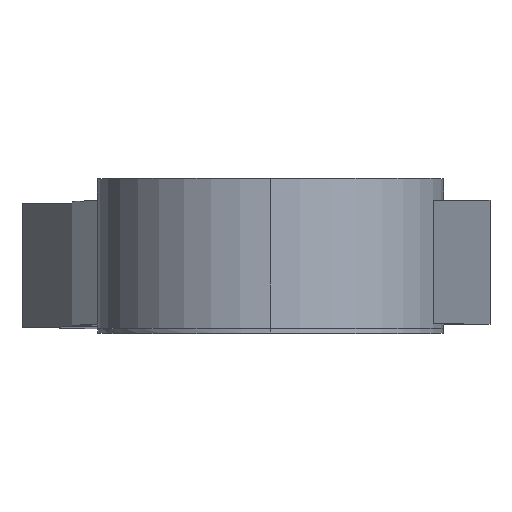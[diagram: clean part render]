
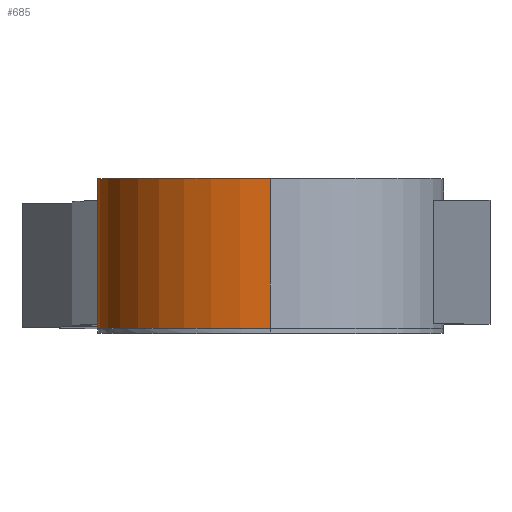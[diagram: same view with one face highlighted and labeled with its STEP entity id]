
A CAD part, top view. The second image highlights one B-rep face of the part: STEP entity #685.
In plain terms, the highlighted cylindrical face has radius 56 mm (diameter 112 mm), a partial arc.
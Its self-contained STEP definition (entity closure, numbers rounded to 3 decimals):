
#5 = ORIENTED_EDGE ( 'NONE', *, *, #580, .T. ) ;
#6 = ORIENTED_EDGE ( 'NONE', *, *, #37, .T. ) ;
#7 = ORIENTED_EDGE ( 'NONE', *, *, #19, .T. ) ;
#8 = VERTEX_POINT ( 'NONE', #87 ) ;
#11 = VERTEX_POINT ( 'NONE', #97 ) ;
#19 = EDGE_CURVE ( 'NONE', #595, #668, #166, .T. ) ;
#20 = VERTEX_POINT ( 'NONE', #171 ) ;
#23 = EDGE_CURVE ( 'NONE', #8, #727, #184, .T. ) ;
#32 = ORIENTED_EDGE ( 'NONE', *, *, #23, .F. ) ;
#37 = EDGE_CURVE ( 'NONE', #668, #20, #243, .T. ) ;
#59 = CARTESIAN_POINT ( 'NONE',  ( -155.973, -77., 1571.753 ) ) ;
#76 = LINE ( 'NONE', #77, #84 ) ;
#77 = CARTESIAN_POINT ( 'NONE',  ( -155.973, -77., 1571.753 ) ) ;
#84 = VECTOR ( 'NONE', #85, 1000. ) ;
#85 = DIRECTION ( 'NONE',  ( 0., 1., 0. ) ) ;
#87 = CARTESIAN_POINT ( 'NONE',  ( -100., -77., 1514. ) ) ;
#97 = CARTESIAN_POINT ( 'NONE',  ( -155.973, -37., 1571.753 ) ) ;
#120 = EDGE_CURVE ( 'NONE', #532, #11, #345, .T. ) ;
#166 = CIRCLE ( 'NONE', #167, 56. ) ;
#167 = AXIS2_PLACEMENT_3D ( 'NONE', #168, #169, #170 ) ;
#168 = CARTESIAN_POINT ( 'NONE',  ( -100., -78.5, 1570. ) ) ;
#169 = DIRECTION ( 'NONE',  ( 0., 1., 0. ) ) ;
#170 = DIRECTION ( 'NONE',  ( 0., 0., 1. ) ) ;
#171 = CARTESIAN_POINT ( 'NONE',  ( -100., -30., 1626. ) ) ;
#184 = CIRCLE ( 'NONE', #185, 56. ) ;
#185 = AXIS2_PLACEMENT_3D ( 'NONE', #186, #187, #188 ) ;
#186 = CARTESIAN_POINT ( 'NONE',  ( -100., -77., 1570. ) ) ;
#187 = DIRECTION ( 'NONE',  ( 0., 1., 0. ) ) ;
#188 = DIRECTION ( 'NONE',  ( 0., 0., -1. ) ) ;
#243 = LINE ( 'NONE', #244, #245 ) ;
#244 = CARTESIAN_POINT ( 'NONE',  ( -100., -77., 1626. ) ) ;
#245 = VECTOR ( 'NONE', #246, 1000. ) ;
#246 = DIRECTION ( 'NONE',  ( 0., 1., 0. ) ) ;
#259 = CIRCLE ( 'NONE', #260, 56. ) ;
#260 = AXIS2_PLACEMENT_3D ( 'NONE', #261, #262, #263 ) ;
#261 = CARTESIAN_POINT ( 'NONE',  ( -100., -30., 1570. ) ) ;
#262 = DIRECTION ( 'NONE',  ( 0., -1., 0. ) ) ;
#263 = DIRECTION ( 'NONE',  ( 0., 0., -1. ) ) ;
#284 = CARTESIAN_POINT ( 'NONE',  ( -100., -78.5, 1626. ) ) ;
#308 = LINE ( 'NONE', #309, #310 ) ;
#309 = CARTESIAN_POINT ( 'NONE',  ( -100., -77., 1514. ) ) ;
#310 = VECTOR ( 'NONE', #311, 1000. ) ;
#311 = DIRECTION ( 'NONE',  ( 0., 1., 0. ) ) ;
#319 = EDGE_CURVE ( 'NONE', #595, #8, #473, .T. ) ;
#339 = EDGE_LOOP ( 'NONE', ( #618, #7, #6, #5, #615, #729, #654, #32 ) ) ;
#345 = CIRCLE ( 'NONE', #346, 56. ) ;
#346 = AXIS2_PLACEMENT_3D ( 'NONE', #347, #348, #349 ) ;
#347 = CARTESIAN_POINT ( 'NONE',  ( -100., -37., 1570. ) ) ;
#348 = DIRECTION ( 'NONE',  ( 0., 1., 0. ) ) ;
#349 = DIRECTION ( 'NONE',  ( 0., 0., -1. ) ) ;
#368 = CARTESIAN_POINT ( 'NONE',  ( -100., -30., 1514. ) ) ;
#413 = CARTESIAN_POINT ( 'NONE',  ( -100., -78.5, 1514. ) ) ;
#467 = FACE_OUTER_BOUND ( 'NONE', #339, .T. ) ;
#468 = CYLINDRICAL_SURFACE ( 'NONE', #469, 56. ) ;
#469 = AXIS2_PLACEMENT_3D ( 'NONE', #470, #471, #472 ) ;
#470 = CARTESIAN_POINT ( 'NONE',  ( -100., -77., 1570. ) ) ;
#471 = DIRECTION ( 'NONE',  ( 0., 1., 0. ) ) ;
#472 = DIRECTION ( 'NONE',  ( 0., 0., 1. ) ) ;
#473 = LINE ( 'NONE', #474, #475 ) ;
#474 = CARTESIAN_POINT ( 'NONE',  ( -100., -77., 1514. ) ) ;
#475 = VECTOR ( 'NONE', #476, 1000. ) ;
#476 = DIRECTION ( 'NONE',  ( 0., 1., 0. ) ) ;
#532 = VERTEX_POINT ( 'NONE', #541 ) ;
#541 = CARTESIAN_POINT ( 'NONE',  ( -100., -37., 1514. ) ) ;
#580 = EDGE_CURVE ( 'NONE', #20, #717, #259, .T. ) ;
#585 = EDGE_CURVE ( 'NONE', #532, #717, #308, .T. ) ;
#595 = VERTEX_POINT ( 'NONE', #413 ) ;
#613 = EDGE_CURVE ( 'NONE', #727, #11, #76, .T. ) ;
#615 = ORIENTED_EDGE ( 'NONE', *, *, #585, .F. ) ;
#618 = ORIENTED_EDGE ( 'NONE', *, *, #319, .F. ) ;
#654 = ORIENTED_EDGE ( 'NONE', *, *, #613, .F. ) ;
#668 = VERTEX_POINT ( 'NONE', #284 ) ;
#685 = ADVANCED_FACE ( 'NONE', ( #467 ), #468, .T. ) ;
#717 = VERTEX_POINT ( 'NONE', #368 ) ;
#727 = VERTEX_POINT ( 'NONE', #59 ) ;
#729 = ORIENTED_EDGE ( 'NONE', *, *, #120, .T. ) ;
